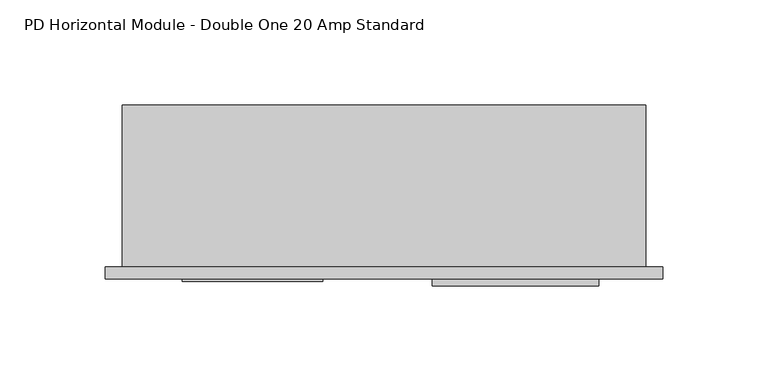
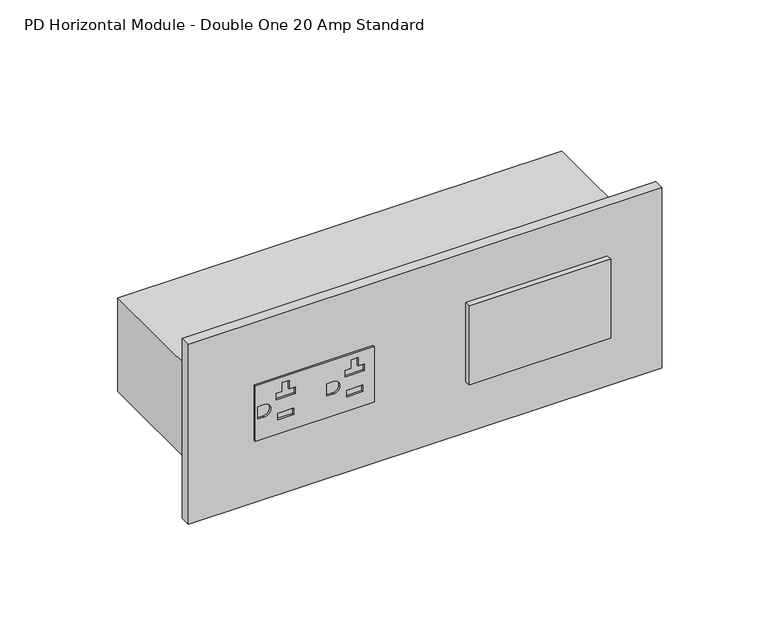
"""IFC4 building model written with IfcOpenShell, lengths in millimetres: proxy geometry, Electrical-Teknion-EPDHD_Horizontal_Power_Data_Double-R2019 : PD Horizontal Module - Double One 20 Amp Standard."""

from ifc_helpers import new_model, si_unit, point, frame, frame_2d, origin, place, context, project, spatial, polyline, circle_curve, trimmed, segment, composite_curve, outline, extrude, source, transform, mapped, element, save


def pd_horizontal_module_double_one_20_amp_standard_4a8edad1(model_context):
    return source(origin(), model_context, "Body", "SweptSolid", [
        extrude(outline(polyline([(854.6103899, 28.5842992), (821.6104559, 28.5842992), (821.6104559, 95.2641659), (854.6103899, 95.2641659), (854.6103899, 28.5842992)]), holes=[composite_curve([segment(trimmed(circle_curve(frame_2d((838.1082157, 33.7564961)), 3.6322), [point((841.7404157, 33.7564961))], [point((834.4760157, 33.7564961))], True, "CARTESIAN"), True, "CONTINUOUS"), segment(polyline([(834.4760157, 33.7564961), (834.4760157, 30.1242961), (841.7404157, 30.1242961), (841.7404157, 33.7564961)]), True, "CONTINUOUS")], self_intersect=False), polyline([(846.1104069, 43.783865), (851.2064089, 43.783865), (851.2064089, 47.644665), (846.1104069, 47.644665), (846.1104069, 51.1442541), (842.2804146, 51.1442541), (842.2804146, 40.2842758), (846.1104069, 40.2842758), (846.1104069, 43.783865)]), polyline([(833.9404313, 50.1442561), (830.1104389, 50.1442561), (830.1104389, 41.2842738), (833.9404313, 41.2842738), (833.9404313, 50.1442561)]), composite_curve([segment(polyline([(834.4760157, 72.4964187), (834.4760157, 68.8642187), (841.7404157, 68.8642187), (841.7404157, 72.4964187)]), True, "CONTINUOUS"), segment(trimmed(circle_curve(frame_2d((838.1082157, 72.4964187)), 3.6322), [point((841.7404157, 72.4964187))], [point((834.4760157, 72.4964187))], True, "CARTESIAN"), True, "CONTINUOUS")], self_intersect=False), polyline([(846.1104069, 82.5237875), (851.2064089, 82.5237875), (851.2064089, 86.3845875), (846.1104069, 86.3845875), (846.1104069, 89.8841766), (842.2804146, 89.8841766), (842.2804146, 79.0241983), (846.1104069, 79.0241983), (846.1104069, 82.5237875)]), polyline([(833.9404313, 88.8841786), (830.1104389, 88.8841786), (830.1104389, 80.0241963), (833.9404313, 80.0241963), (833.9404313, 88.8841786)])]), frame((0.0, -6.9294746, 0.0), z_axis=(0.0, 1.0, 0.0), x_axis=(0.0, 0.0, 1.0)), (0.0, 0.0, 1.0), 1.0366746),
        extrude(outline(polyline([(147.3082675, -5.8928), (226.6832675, -5.8928), (226.6832675, -9.0678), (147.3082675, -9.0678), (147.3082675, -5.8928)])), frame((0.0, 0.0, 814.8854229), z_axis=(0.0, 0.0, 1.0), x_axis=(1.0, 0.0, 0.0)), (0.0, 0.0, 1.0), 46.863),
        extrude(outline(polyline([(-8.2450977, 0.0), (257.1652913, 0.0), (257.1652913, -5.8928), (-8.2450977, -5.8928), (-8.2450977, 0.0)])), frame((0.0, 0.0, 784.6718508), z_axis=(0.0, 0.0, 1.0), x_axis=(1.0, 0.0, 0.0)), (0.0, 0.0, 1.0), 106.8771443),
        extrude(outline(polyline([(248.92, 0.0), (0.0, 0.0), (0.0, 77.054), (248.92, 77.054), (248.92, 0.0)])), frame((0.0, 0.0, 810.3355229), z_axis=(0.0, 0.0, 1.0), x_axis=(1.0, 0.0, 0.0)), (0.0, 0.0, 1.0), 55.5498),
    ])


if __name__ == "__main__":
    model = new_model("IFC4")
    model_context = context("Model", 3, world=origin())
    ifc_project = project(units=[si_unit("LENGTHUNIT", "METRE", prefix="MILLI")], contexts=[model_context])
    site = spatial("IfcSite", under=ifc_project)
    building = spatial("IfcBuilding", under=site)
    placement = place(None, origin())
    pd_horizontal_module_double_one_20_amp_standard_shape = pd_horizontal_module_double_one_20_amp_standard_4a8edad1(model_context)
    element("IfcBuildingElementProxy", 1, Name="Electrical-Teknion-EPDHD_Horizontal_Power_Data_Double-R2019 : PD Horizontal Module - Double One 20 Amp Standard", ObjectType="Electrical-Teknion-EPDHD_Horizontal_Power_Data_Double-R2019 : PD Horizontal Module - Double One 20 Amp Standard", at=placement, inside=building, context=model_context, shape_type="MappedRepresentation", body=[
        mapped(pd_horizontal_module_double_one_20_amp_standard_shape, transform((0.0, 0.0, 0.0), x_axis=(1.0, 0.0, 0.0), y_axis=(0.0, 1.0, 0.0), z_axis=(0.0, 0.0, 1.0))),
    ])
    save(model, "model.ifc")
